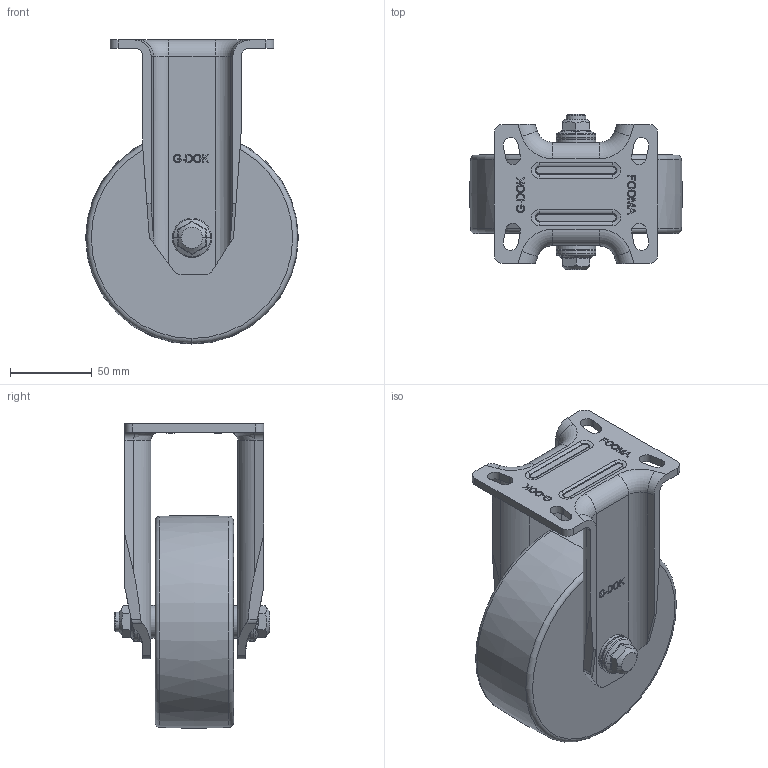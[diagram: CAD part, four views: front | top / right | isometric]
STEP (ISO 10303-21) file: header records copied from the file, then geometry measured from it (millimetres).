
FILE_DESCRIPTION((''),'2;1');
FILE_NAME('PH-130-ARF-MCD.stp','2013-04-30T13:51:41',(''),(''),'Mechanical Desktop 2009','Mechanical Desktop 2009',', , ');
FILE_SCHEMA(('CONFIG_CONTROL_DESIGN'));
Length unit declared in the file: millimetre
Products named in the file (2): PH-130-ARF-MCD; RFFRAME
Assembly tree (1 placements, depth 2):
  PH-130-ARF-MCD
    RFFRAME
Bounding box: 130 x 94.8 x 185.95 mm (x, y, z)
Volume: 761482.8 mm3; surface area: 99091.1 mm2
Topology: 1 solids, 1 shells, 555 faces, 1474 edges, 962 vertices
Faces by surface type: bspline 240, plane 219, cylinder 70, torus 16, cone 10
Entity records: 19761 total; most frequent: CARTESIAN_POINT 7343, ORIENTED_EDGE 2948, DIRECTION 1848, EDGE_CURVE 1474, VERTEX_POINT 962, VECTOR 790, LINE 790, EDGE_LOOP 606
